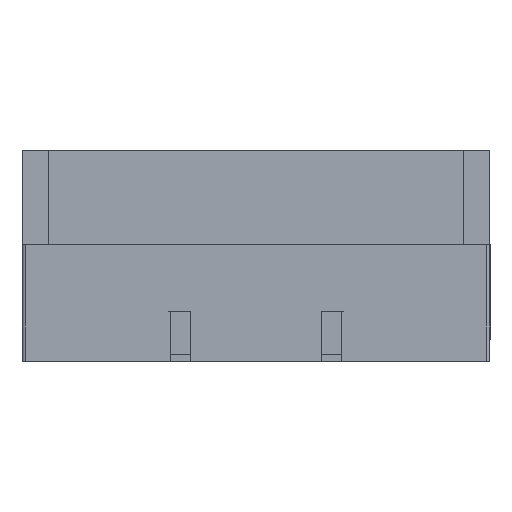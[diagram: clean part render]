
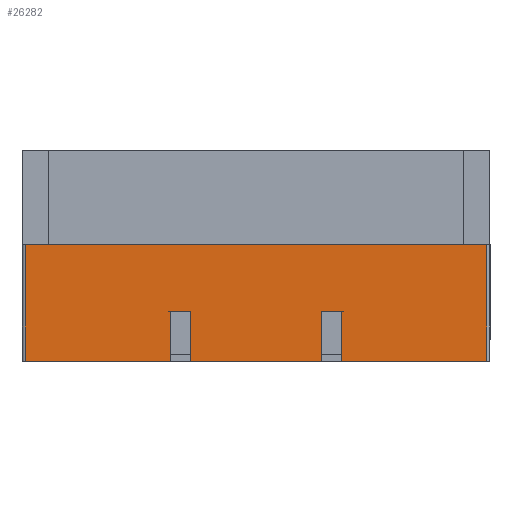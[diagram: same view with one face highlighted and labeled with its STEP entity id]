
A CAD part, left-side view. The second image highlights one B-rep face of the part: STEP entity #26282.
In plain terms, the highlighted planar face has unit normal (-1, 0, 0).
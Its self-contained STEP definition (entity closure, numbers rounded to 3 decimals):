
#363 = LINE ( 'NONE', #32838, #31625 ) ;
#1305 = EDGE_CURVE ( 'NONE', #57731, #3182, #28028, .T. ) ;
#1601 = LINE ( 'NONE', #7168, #26109 ) ;
#3182 = VERTEX_POINT ( 'NONE', #29437 ) ;
#4153 = DIRECTION ( 'NONE',  ( -1., 0., 0. ) ) ;
#4349 = DIRECTION ( 'NONE',  ( 0., 1., 0. ) ) ;
#5298 = EDGE_CURVE ( 'NONE', #59808, #28140, #6191, .T. ) ;
#5567 = DIRECTION ( 'NONE',  ( 0., 0., -1. ) ) ;
#5811 = CARTESIAN_POINT ( 'NONE',  ( -135., 69., -34. ) ) ;
#6191 = LINE ( 'NONE', #17831, #29981 ) ;
#6669 = ORIENTED_EDGE ( 'NONE', *, *, #48781, .T. ) ;
#7168 = CARTESIAN_POINT ( 'NONE',  ( -135., 69., -34. ) ) ;
#7458 = VERTEX_POINT ( 'NONE', #29636 ) ;
#7587 = CARTESIAN_POINT ( 'NONE',  ( -135., 69., 1. ) ) ;
#8983 = DIRECTION ( 'NONE',  ( 0., 0., 1. ) ) ;
#9106 = LINE ( 'NONE', #15327, #55303 ) ;
#9186 = VECTOR ( 'NONE', #21716, 1000. ) ;
#10086 = ORIENTED_EDGE ( 'NONE', *, *, #1305, .T. ) ;
#10647 = VECTOR ( 'NONE', #22490, 1000. ) ;
#10734 = AXIS2_PLACEMENT_3D ( 'NONE', #32637, #4153, #17863 ) ;
#10816 = ORIENTED_EDGE ( 'NONE', *, *, #40794, .T. ) ;
#11186 = VECTOR ( 'NONE', #8983, 1000. ) ;
#11963 = CARTESIAN_POINT ( 'NONE',  ( -135., 0., -34. ) ) ;
#13090 = PLANE ( 'NONE',  #10734 ) ;
#13402 = LINE ( 'NONE', #46372, #58900 ) ;
#14284 = EDGE_CURVE ( 'NONE', #53185, #14703, #23248, .T. ) ;
#14703 = VERTEX_POINT ( 'NONE', #16609 ) ;
#15072 = CARTESIAN_POINT ( 'NONE',  ( -135., 19.5, -34. ) ) ;
#15327 = CARTESIAN_POINT ( 'NONE',  ( -135., 19.5, -34. ) ) ;
#15377 = VECTOR ( 'NONE', #30607, 1000. ) ;
#15548 = DIRECTION ( 'NONE',  ( 0., -1., 0. ) ) ;
#16371 = EDGE_LOOP ( 'NONE', ( #41539, #32343, #10816, #36021, #20553, #51832, #28724, #33465, #52487, #59364, #10086, #6669 ) ) ;
#16609 = CARTESIAN_POINT ( 'NONE',  ( -135., -25.5, -19. ) ) ;
#17831 = CARTESIAN_POINT ( 'NONE',  ( -135., -69., 0. ) ) ;
#17863 = DIRECTION ( 'NONE',  ( 0., 0., 1. ) ) ;
#18688 = EDGE_CURVE ( 'NONE', #46615, #53185, #50019, .T. ) ;
#18747 = CARTESIAN_POINT ( 'NONE',  ( -135., 69., -19. ) ) ;
#18999 = DIRECTION ( 'NONE',  ( 0., 0., -1. ) ) ;
#20145 = CARTESIAN_POINT ( 'NONE',  ( -135., 25.5, -34. ) ) ;
#20553 = ORIENTED_EDGE ( 'NONE', *, *, #18688, .T. ) ;
#21716 = DIRECTION ( 'NONE',  ( 0., -1., 0. ) ) ;
#22490 = DIRECTION ( 'NONE',  ( 0., -1., 0. ) ) ;
#23248 = LINE ( 'NONE', #18747, #10647 ) ;
#23677 = VERTEX_POINT ( 'NONE', #46050 ) ;
#26109 = VECTOR ( 'NONE', #54839, 1000. ) ;
#26282 = ADVANCED_FACE ( 'NONE', ( #35756 ), #13090, .T. ) ;
#26323 = EDGE_CURVE ( 'NONE', #57731, #28140, #13402, .T. ) ;
#28028 = LINE ( 'NONE', #44769, #15377 ) ;
#28040 = VECTOR ( 'NONE', #18999, 1000. ) ;
#28140 = VERTEX_POINT ( 'NONE', #32092 ) ;
#28724 = ORIENTED_EDGE ( 'NONE', *, *, #44054, .T. ) ;
#28823 = LINE ( 'NONE', #47506, #28040 ) ;
#28851 = VECTOR ( 'NONE', #15548, 1000. ) ;
#29437 = CARTESIAN_POINT ( 'NONE',  ( -135., 69., -34. ) ) ;
#29636 = CARTESIAN_POINT ( 'NONE',  ( -135., 25.5, -19. ) ) ;
#29981 = VECTOR ( 'NONE', #56777, 1000. ) ;
#30607 = DIRECTION ( 'NONE',  ( 0., 0., -1. ) ) ;
#31625 = VECTOR ( 'NONE', #4349, 1000. ) ;
#32092 = CARTESIAN_POINT ( 'NONE',  ( -135., -69., 1. ) ) ;
#32343 = ORIENTED_EDGE ( 'NONE', *, *, #53252, .F. ) ;
#32637 = CARTESIAN_POINT ( 'NONE',  ( -135., 69., 0. ) ) ;
#32838 = CARTESIAN_POINT ( 'NONE',  ( -135., 0., -19. ) ) ;
#32943 = VERTEX_POINT ( 'NONE', #15072 ) ;
#33465 = ORIENTED_EDGE ( 'NONE', *, *, #61514, .T. ) ;
#35403 = VERTEX_POINT ( 'NONE', #20145 ) ;
#35648 = CARTESIAN_POINT ( 'NONE',  ( -135., 19.5, -19. ) ) ;
#35756 = FACE_OUTER_BOUND ( 'NONE', #16371, .T. ) ;
#36021 = ORIENTED_EDGE ( 'NONE', *, *, #41407, .T. ) ;
#36977 = CARTESIAN_POINT ( 'NONE',  ( -135., -19.5, -34. ) ) ;
#38174 = VERTEX_POINT ( 'NONE', #35648 ) ;
#40794 = EDGE_CURVE ( 'NONE', #38174, #32943, #9106, .T. ) ;
#41022 = LINE ( 'NONE', #52255, #11186 ) ;
#41407 = EDGE_CURVE ( 'NONE', #32943, #46615, #1601, .T. ) ;
#41539 = ORIENTED_EDGE ( 'NONE', *, *, #50971, .T. ) ;
#44054 = EDGE_CURVE ( 'NONE', #14703, #23677, #28823, .T. ) ;
#44619 = CARTESIAN_POINT ( 'NONE',  ( -135., -19.5, -34. ) ) ;
#44769 = CARTESIAN_POINT ( 'NONE',  ( -135., 69., 0. ) ) ;
#46050 = CARTESIAN_POINT ( 'NONE',  ( -135., -25.5, -34. ) ) ;
#46372 = CARTESIAN_POINT ( 'NONE',  ( -135., 0., 1. ) ) ;
#46615 = VERTEX_POINT ( 'NONE', #36977 ) ;
#47506 = CARTESIAN_POINT ( 'NONE',  ( -135., -25.5, -34. ) ) ;
#47847 = LINE ( 'NONE', #11963, #9186 ) ;
#48558 = DIRECTION ( 'NONE',  ( 0., 0., 1. ) ) ;
#48781 = EDGE_CURVE ( 'NONE', #3182, #35403, #47847, .T. ) ;
#50019 = LINE ( 'NONE', #44619, #59719 ) ;
#50971 = EDGE_CURVE ( 'NONE', #35403, #7458, #41022, .T. ) ;
#51832 = ORIENTED_EDGE ( 'NONE', *, *, #14284, .T. ) ;
#52255 = CARTESIAN_POINT ( 'NONE',  ( -135., 25.5, -34. ) ) ;
#52400 = CARTESIAN_POINT ( 'NONE',  ( -135., -19.5, -19. ) ) ;
#52487 = ORIENTED_EDGE ( 'NONE', *, *, #5298, .T. ) ;
#52703 = LINE ( 'NONE', #5811, #28851 ) ;
#53185 = VERTEX_POINT ( 'NONE', #52400 ) ;
#53252 = EDGE_CURVE ( 'NONE', #38174, #7458, #363, .T. ) ;
#54839 = DIRECTION ( 'NONE',  ( 0., -1., 0. ) ) ;
#55303 = VECTOR ( 'NONE', #5567, 1000. ) ;
#55996 = DIRECTION ( 'NONE',  ( 0., -1., 0. ) ) ;
#56777 = DIRECTION ( 'NONE',  ( 0., 0., 1. ) ) ;
#57004 = CARTESIAN_POINT ( 'NONE',  ( -135., -69., -34. ) ) ;
#57731 = VERTEX_POINT ( 'NONE', #7587 ) ;
#58900 = VECTOR ( 'NONE', #55996, 1000. ) ;
#59364 = ORIENTED_EDGE ( 'NONE', *, *, #26323, .F. ) ;
#59719 = VECTOR ( 'NONE', #48558, 1000. ) ;
#59808 = VERTEX_POINT ( 'NONE', #57004 ) ;
#61514 = EDGE_CURVE ( 'NONE', #23677, #59808, #52703, .T. ) ;
